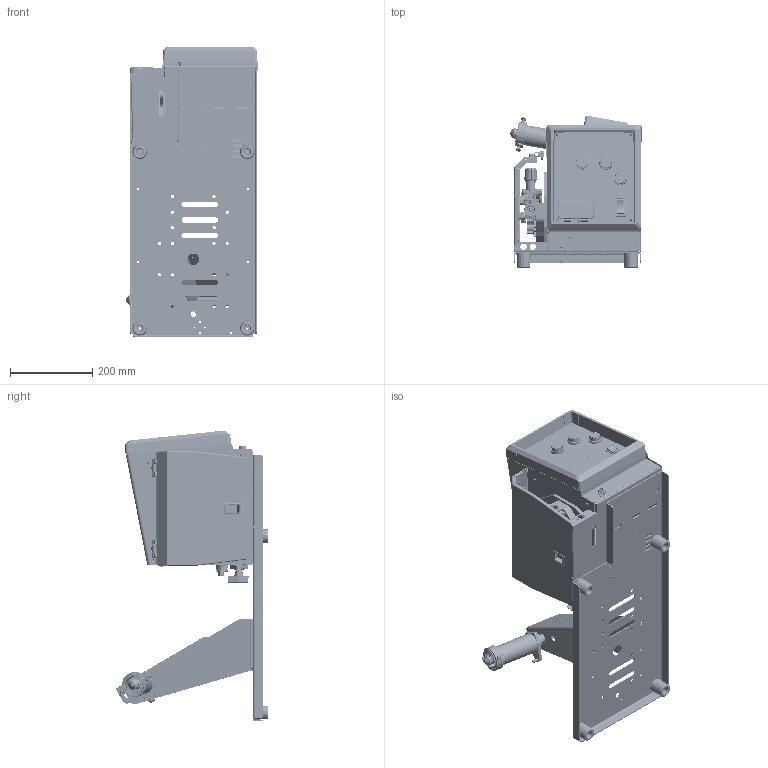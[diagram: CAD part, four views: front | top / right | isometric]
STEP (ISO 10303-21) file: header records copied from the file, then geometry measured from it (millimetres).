
FILE_DESCRIPTION (( 'STEP AP214' ), '1' );
FILE_NAME ('301492.STEP', '2020-03-03T21:07:24', ( '' ), ( '' ), 'SwSTEP 2.0', 'SolidWorks 2017', '' );
FILE_SCHEMA (( 'AUTOMOTIVE_DESIGN' ));
Length unit declared in the file: inch
Products named in the file (122): 211989; 241856; 282105; 220805; 245663; 166072; 211990; 279263-REF.COMPRESSED; 20483-ADJ SCREW; 246150; 180574; 200295; 196895; 237188; 279240; 279742; 010233; 279264; 221030_Solid Steel Guide; 180571_WELDED; 141753; 279189; 172077-REF.; 281349_90631A007; 109844; 601847; 279259; 279269D-ref_without cable ribbons; 151828; 228562; SW3dPS-a3-40-625-12_a3_slide_40_625_clf; 252217; 072785; 231232; 605525; 239737-3; 279181; 085244; 082193; 267899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
Assembly tree (172 placements, depth 5):
  301492
    279235
      279264
      279268_without cable ribbons showing
        279169
        279269D-ref_without cable ribbons
        279272
          279272
          250955  x8
        200295
        245663  x3
        279189
        072785
      111997
      226819_New Design
        226819-1_New Design
        226819-2
      220805
      211989
        209935
        211990
      239737
        239737-1
        239737-2
        239737-3
        239737-4_90545A111
      279742
      081560
      280064
      280714
      246150  x2
      601835
      601847  x2
      281158
    281994
    279236
      279251
        279253
          279179
          252238
          172075
          228562
        279254
          279181
          252238
          172075
          228562
        252217  x2
          085244
          196895
          241856
          267899
          252243
        279255  x2
        281870  x2
        221030_Solid Steel Guide
        166072  x2
        172075  x2
        273794  x2
        279257  x2
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Bounding box: 320.55 x 370.33 x 707.68 mm (x, y, z)
Volume: 3142090.4 mm3; surface area: 2632236 mm2
Topology: 178 solids, 184 shells, 16712 faces, 43565 edges, 27754 vertices
Faces by surface type: plane 7120, cylinder 5395, bspline 2116, cone 1233, torus 711, sphere 137
Entity records: 524198 total; most frequent: CARTESIAN_POINT 180485, ORIENTED_EDGE 67416, DIRECTION 59034, EDGE_CURVE 33708, VERTEX_POINT 21477, AXIS2_PLACEMENT_3D 20226, VECTOR 18582, LINE 18582
